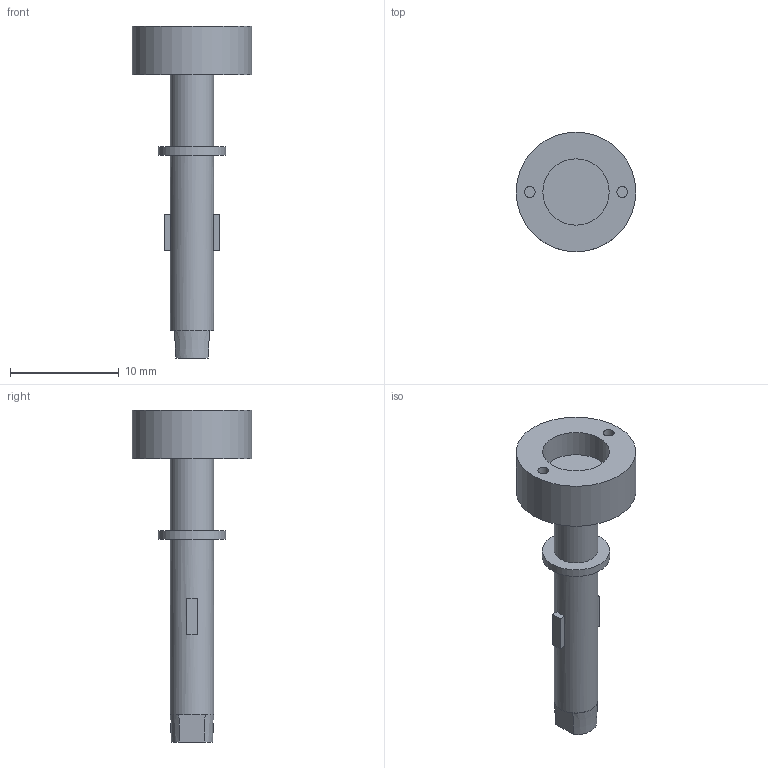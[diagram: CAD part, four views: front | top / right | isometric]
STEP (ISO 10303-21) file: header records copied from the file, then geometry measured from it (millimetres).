
FILE_DESCRIPTION(('Open CASCADE Model'),'2;1');
FILE_NAME('Open CASCADE Shape Model','2026-09-24T17:42:53',('Author'),( 'Open CASCADE'),'Open CASCADE STEP processor 7.8','Open CASCADE 7.8' ,'Unknown');
FILE_SCHEMA(('AUTOMOTIVE_DESIGN { 1 0 10303 214 1 1 1 1 }'));
Length unit declared in the file: millimetre
Products named in the file (1): Open CASCADE STEP translator 7.8 34
Bounding box: 11 x 11 x 30.55 mm (x, y, z)
Volume: 685.2 mm3; surface area: 799.9 mm2
Topology: 1 solids, 1 shells, 41 faces, 81 edges, 50 vertices
Faces by surface type: plane 29, cylinder 8, cone 4
Full cylindrical faces by diameter (mm): 1 x2, 1.3 x1, 4 x2, 6.1 x1, 6.2 x1, 11 x1
Entity records: 2150 total; most frequent: CARTESIAN_POINT 423, DIRECTION 339, ORIENTED_EDGE 162, PCURVE 162, DEFINITIONAL_REPRESENTATION 162, LINE 133, VECTOR 133, AXIS2_PLACEMENT_3D 86
